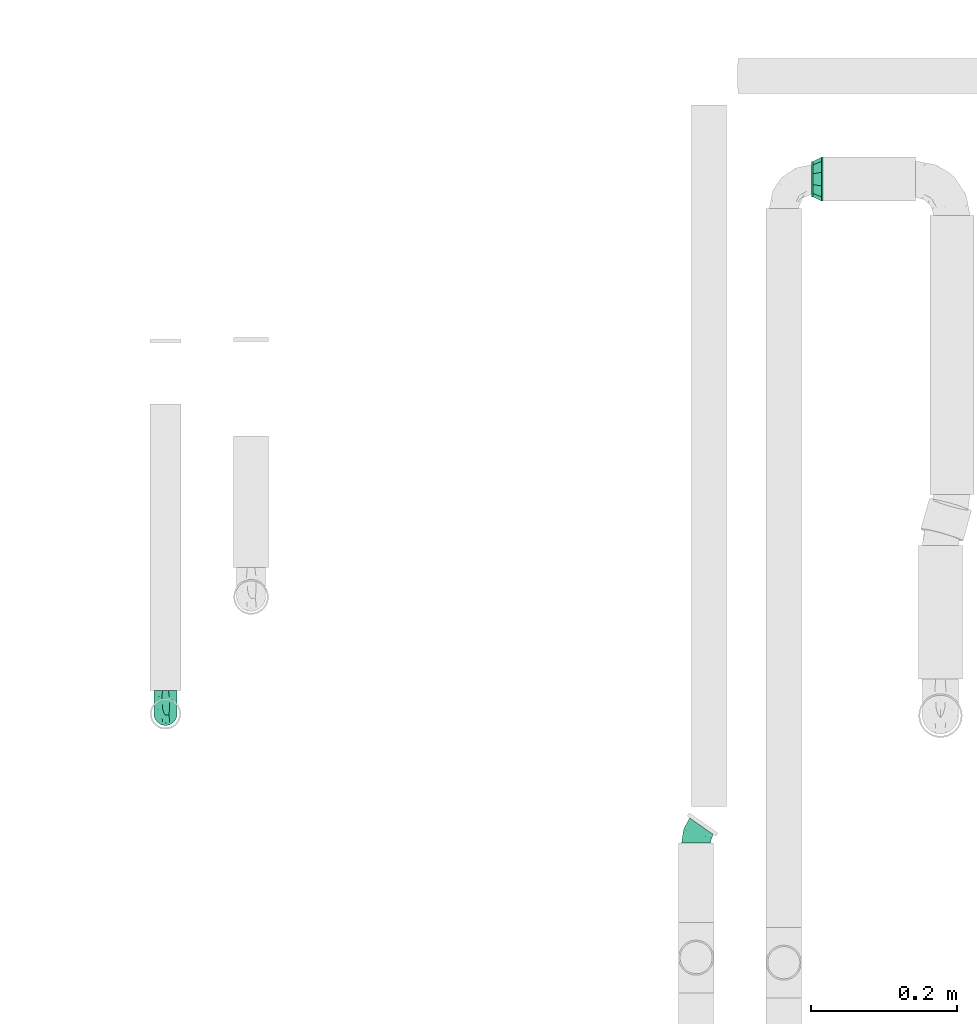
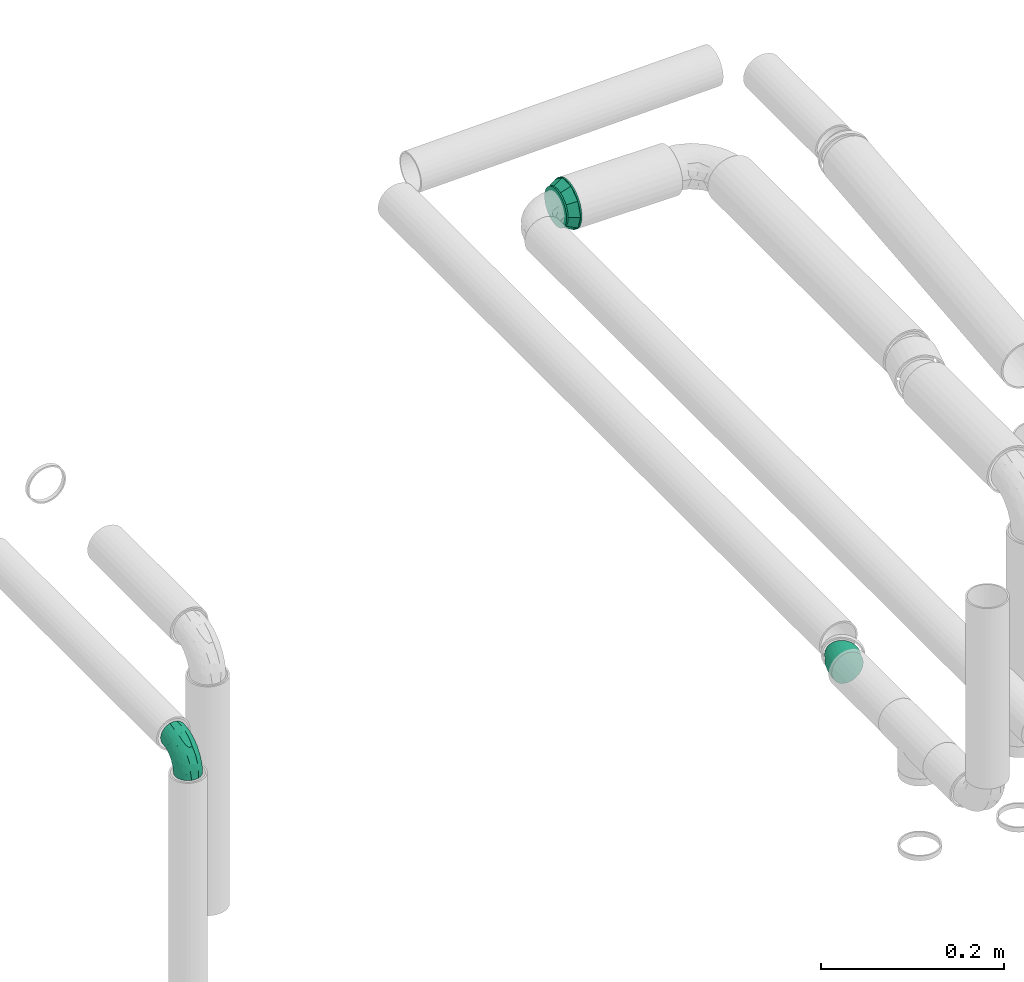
# One storey, part 154 of 156: 3 flow fittings.
"""IFC2X3 building model written with IfcOpenShell, lengths in millimetres."""

from ifc_helpers import new_model, entity, si_unit, converted_unit, derived_unit, direction, frame, origin_with_axes, place, context, subcontext, project, spatial, open_shell, surface_model, source, transform, mapped, type_object, element, save


model = new_model("IFC2X3")

# Units and contexts
model_context = context("Model", 3, precision=0.01, world=frame((0.0, 4.29681676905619e-09, 0.0)), true_north=direction((4.01073788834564e-13, 1.0)))
plan_context = context("Plan", 3, precision=0.01, world=frame((0.0, 4.29681676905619e-09, 0.0)), true_north=direction((4.01073788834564e-13, 1.0)))
body_context = subcontext(model_context, "Body", "Model", "MODEL_VIEW")
ifc_project = project(units=[converted_unit("PLANEANGLEUNIT", "DEGREE", entity("IfcPositiveLengthMeasure", 0.0174532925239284), si_unit("PLANEANGLEUNIT", "RADIAN"), dimensions=[0, 0, 0, 0, 0, 0, 0]), si_unit("AREAUNIT", "SQUARE_METRE"), si_unit("LENGTHUNIT", "METRE", prefix="MILLI"), si_unit("MASSUNIT", "GRAM", prefix="KILO"), si_unit("POWERUNIT", "WATT"), si_unit("PRESSUREUNIT", "PASCAL", prefix="KILO"), si_unit("FORCEUNIT", "NEWTON", prefix="KILO"), si_unit("ELECTRICVOLTAGEUNIT", "VOLT"), si_unit("ELECTRICCURRENTUNIT", "AMPERE"), si_unit("THERMODYNAMICTEMPERATUREUNIT", "DEGREE_CELSIUS"), si_unit("TIMEUNIT", "SECOND"), si_unit("VOLUMEUNIT", "CUBIC_METRE"), derived_unit("LINEARVELOCITYUNIT", [(si_unit("LENGTHUNIT", "METRE"), 1), (si_unit("TIMEUNIT", "SECOND"), -1)]), derived_unit("VOLUMETRICFLOWRATEUNIT", [(si_unit("VOLUMEUNIT", "CUBIC_METRE"), 1), (si_unit("TIMEUNIT", "SECOND"), -1)]), derived_unit("THERMALTRANSMITTANCEUNIT", [(si_unit("POWERUNIT", "WATT"), 1), (si_unit("THERMODYNAMICTEMPERATUREUNIT", "KELVIN"), -1), (si_unit("AREAUNIT", "SQUARE_METRE"), -1)]), derived_unit("SOUNDPRESSUREUNIT", [(si_unit("PRESSUREUNIT", "PASCAL"), 1)])], contexts=[model_context, plan_context])

# Site, building, storey
site_placement = place(None, frame((0.0, -4.29681676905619e-09, 0.0), z_axis=(0.0, 0.0, 1.0), x_axis=(1.0, 0.0, 0.0)))
site = spatial("IfcSite", under=ifc_project, at=site_placement, CompositionType="ELEMENT")
building_placement = place(site_placement, frame((0.0, 4.29681676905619e-09, 0.0), z_axis=(0.0, 0.0, 1.0), x_axis=(1.0, 0.0, 0.0)))
building = spatial("IfcBuilding", under=site, at=building_placement, Name="mc-building", CompositionType="ELEMENT")
storey_placement = place(building_placement, frame((0.0, 0.0, 205200.0), z_axis=(0.0, 0.0, 1.0), x_axis=(1.0, 0.0, 0.0)))
storey = spatial("IfcBuildingStorey", under=building, at=storey_placement, Name="Nivå D + 1,2 m", CompositionType="ELEMENT", Elevation=205200.0)

# Flow fittings
pipe_fitting_type_1 = type_object("IfcPipeFittingType", Name="magi_pipe_fe_reducer_centric_short_001", PredefinedType="TRANSITION")
shared_shape_1 = source(origin_with_axes(), body_context, "Body", "SurfaceModel", [
    surface_model("IfcShellBasedSurfaceModel", [(-2.0, 0.0, 30.2), (-2.0, 7.81634, 29.17096), (-2.0, 15.1, 26.15397), (-2.0, 21.35462, 21.35462), (-2.0, 26.15397, 15.1), (-2.0, 29.17096, 7.81634), (-2.0, -29.17096, 7.81634), (-2.0, 30.2, 0.0), (-2.0, -7.81634, 29.17096), (-2.0, -21.35462, 21.35462), (-2.0, -15.1, 26.15397), (-2.0, -26.15397, 15.1), (-2.0, -30.2, 0.0), (-2.0, 29.17096, -7.81634), (-2.0, 26.15397, -15.1), (-2.0, 21.35462, -21.35462), (-2.0, 15.1, -26.15397), (-2.0, 7.81634, -29.17096), (-2.0, -15.1, -26.15397), (-2.0, -29.17096, -7.81634), (-2.0, -21.35462, -21.35462), (-2.0, -26.15397, -15.1), (-2.0, 0.0, -30.2), (-2.0, -7.81634, -29.17096), (0.0, 7.81634, -29.17096), (0.0, 15.1, -26.15397), (0.0, 21.35462, -21.35462), (0.0, 30.2, 0.0), (0.0, 26.15397, -15.1), (0.0, 29.17096, -7.81634), (0.0, -15.1, -26.15397), (0.0, -29.17096, 7.81634), (0.0, 0.0, -30.2), (0.0, -7.81634, -29.17096), (0.0, -21.35462, -21.35462), (0.0, -29.17096, -7.81634), (0.0, -26.15397, -15.1), (0.0, 29.17096, 7.81634), (0.0, 26.15397, 15.1), (0.0, 21.35462, 21.35462), (0.0, -21.35462, 21.35462), (0.0, 15.1, 26.15397), (0.0, 7.81634, 29.17096), (0.0, 0.0, 30.2), (0.0, -26.15397, 15.1), (0.0, -30.2, 0.0), (0.0, -7.81634, 29.17096), (0.0, -15.1, 26.15397), (0.0, 24.43231, 17.75111), (0.0, 9.33231, -28.72191), (0.0, -9.33231, -28.72191), (0.0, -24.43231, -17.75111), (0.0, 9.33231, 28.72191), (0.0, -9.33231, 28.72191), (0.0, -24.43231, 17.75111), (0.0, 24.43231, -17.75111), (14.0, 12.1, -20.95781), (14.0, -24.2, 0.0), (14.0, 6.26342, -23.37541), (14.0, 23.37541, -6.26342), (14.0, 17.11198, -17.11198), (14.0, 20.95781, -12.1), (14.0, -17.11198, -17.11198), (14.0, -6.26342, -23.37541), (14.0, -12.1, -20.95781), (14.0, 0.0, -24.2), (14.0, -23.37541, -6.26342), (14.0, -20.95781, -12.1), (14.0, 24.2, 0.0), (14.0, 23.37541, 6.26342), (14.0, 20.95781, 12.1), (14.0, 17.11198, 17.11198), (14.0, 12.1, 20.95781), (14.0, 6.26342, 23.37541), (14.0, 0.0, 24.2), (14.0, -23.37541, 6.26342), (14.0, -17.11198, 17.11198), (14.0, -20.95781, 12.1), (14.0, -6.26342, 23.37541), (14.0, -12.1, 20.95781), (12.0, 0.0, 24.2), (12.0, 6.26342, 23.37541), (12.0, 12.1, 20.95781), (12.0, 17.11198, 17.11198), (12.0, 20.95781, 12.1), (12.0, 23.37541, 6.26342), (12.0, -23.37541, 6.26342), (12.0, -17.11198, -17.11198), (12.0, -6.26342, 23.37541), (12.0, -17.11198, 17.11198), (12.0, -12.1, 20.95781), (12.0, -20.95781, 12.1), (12.0, -24.2, 0.0), (12.0, 24.2, 0.0), (12.0, 17.11198, -17.11198), (12.0, 23.37541, -6.26342), (12.0, 20.95781, -12.1), (12.0, 12.1, -20.95781), (12.0, 6.26342, -23.37541), (12.0, -23.37541, -6.26342), (12.0, -20.95781, -12.1), (12.0, -6.26342, -23.37541), (12.0, -12.1, -20.95781), (12.0, 0.0, -24.2), (12.0, -7.47821, 23.01557), (12.0, -19.57821, 14.2244), (12.0, 19.57821, 14.2244), (12.0, 7.47821, 23.01557), (12.0, -7.47821, -23.01557), (12.0, -19.57821, -14.2244), (12.0, 7.47821, -23.01557), (12.0, 19.57821, -14.2244), (12.0, 13.52821, -18.61999), (0.0, 16.88231, -23.23651), (0.0, 27.31616, -8.87556), (12.0, 21.8891, -7.1122), (0.0, -27.48172, -8.36602), (12.0, 0.0, -23.01557), (0.0, 0.0, -28.72191), (12.0, -21.8891, -7.1122), (0.0, -16.88231, -23.23651), (12.0, -13.52821, -18.61999), (12.0, -13.52821, 18.61999), (0.0, -16.88231, 23.23651), (0.0, -27.31616, 8.87556), (12.0, -21.8891, 7.1122), (0.0, 27.48172, 8.36602), (12.0, 0.0, 23.01557), (0.0, 0.0, 28.72191), (12.0, 21.8891, 7.1122), (0.0, 16.88231, 23.23651), (12.0, 13.52821, 18.61999)], [open_shell([[[0, 1, 2]], [[0, 2, 3]], [[3, 4, 5]], [[0, 3, 6]], [[7, 6, 3]], [[8, 9, 10]], [[8, 0, 9]], [[9, 6, 11]], [[0, 6, 9]], [[6, 7, 12]], [[7, 3, 5]], [[7, 13, 14]], [[7, 14, 15]], [[15, 16, 17]], [[15, 17, 7]], [[17, 18, 12]], [[19, 20, 21]], [[20, 19, 18]], [[18, 22, 23]], [[19, 12, 18]], [[17, 22, 18]], [[12, 7, 17]], [[24, 25, 26]], [[24, 26, 27]], [[28, 29, 27]], [[28, 27, 26]], [[30, 24, 31]], [[32, 30, 33]], [[32, 24, 30]], [[34, 35, 36]], [[35, 34, 30]], [[30, 31, 35]], [[31, 24, 27]], [[37, 38, 39]], [[27, 39, 40]], [[41, 42, 43]], [[40, 39, 41]], [[40, 41, 43]], [[31, 40, 44]], [[45, 35, 31]], [[40, 46, 47]], [[31, 27, 40]], [[46, 40, 43]], [[37, 39, 27]], [[19, 35, 12]], [[21, 36, 19]], [[30, 20, 18]], [[21, 20, 34]], [[33, 18, 23]], [[19, 36, 35]], [[35, 45, 12]], [[33, 30, 18]], [[34, 20, 30]], [[34, 36, 21]], [[32, 33, 23]], [[23, 22, 32]], [[17, 24, 22]], [[16, 25, 17]], [[28, 15, 14]], [[16, 15, 26]], [[29, 14, 13]], [[16, 26, 25]], [[25, 24, 17]], [[27, 29, 13]], [[28, 14, 29]], [[28, 26, 15]], [[7, 27, 13]], [[22, 24, 32]], [[5, 37, 7]], [[4, 38, 5]], [[41, 3, 2]], [[4, 3, 39]], [[42, 2, 1]], [[5, 38, 37]], [[37, 27, 7]], [[42, 41, 2]], [[39, 3, 41]], [[39, 38, 4]], [[43, 42, 1]], [[1, 0, 43]], [[8, 46, 0]], [[10, 47, 8]], [[44, 9, 11]], [[10, 9, 40]], [[31, 11, 6]], [[10, 40, 47]], [[47, 46, 8]], [[45, 31, 6]], [[44, 11, 31]], [[44, 40, 9]], [[12, 45, 6]], [[0, 46, 43]], [[48, 49, 45]], [[45, 50, 51]], [[45, 49, 50]], [[52, 48, 45]], [[53, 45, 54]], [[45, 53, 52]], [[49, 48, 55]], [[55, 48, 27]], [[56, 57, 58]], [[59, 56, 60]], [[56, 59, 57]], [[59, 60, 61]], [[57, 62, 58]], [[63, 62, 64]], [[63, 65, 58]], [[62, 66, 67]], [[63, 58, 62]], [[62, 57, 66]], [[68, 57, 59]], [[69, 70, 71]], [[68, 71, 57]], [[72, 73, 74]], [[72, 74, 71]], [[57, 71, 74]], [[75, 76, 77]], [[78, 75, 57]], [[76, 78, 79]], [[78, 76, 75]], [[57, 74, 78]], [[71, 68, 69]], [[80, 81, 82]], [[80, 82, 83]], [[83, 84, 85]], [[80, 83, 86]], [[83, 87, 86]], [[88, 89, 90]], [[88, 80, 89]], [[89, 86, 91]], [[80, 86, 89]], [[86, 87, 92]], [[83, 85, 93]], [[94, 93, 95]], [[94, 95, 96]], [[97, 98, 93]], [[97, 93, 94]], [[98, 87, 83]], [[99, 87, 100]], [[92, 87, 99]], [[87, 101, 102]], [[87, 98, 101]], [[103, 101, 98]], [[83, 93, 98]], [[99, 66, 92]], [[100, 67, 99]], [[64, 87, 102]], [[100, 87, 62]], [[63, 102, 101]], [[99, 67, 66]], [[66, 57, 92]], [[63, 64, 102]], [[62, 87, 64]], [[62, 67, 100]], [[65, 63, 101]], [[101, 103, 65]], [[98, 58, 103]], [[97, 56, 98]], [[61, 94, 96]], [[97, 94, 60]], [[59, 96, 95]], [[97, 60, 56]], [[56, 58, 98]], [[68, 59, 95]], [[61, 96, 59]], [[61, 60, 94]], [[93, 68, 95]], [[103, 58, 65]], [[85, 69, 93]], [[84, 70, 85]], [[72, 83, 82]], [[84, 83, 71]], [[73, 82, 81]], [[85, 70, 69]], [[69, 68, 93]], [[73, 72, 82]], [[71, 83, 72]], [[71, 70, 84]], [[74, 73, 81]], [[81, 80, 74]], [[88, 78, 80]], [[90, 79, 88]], [[77, 89, 91]], [[90, 89, 76]], [[75, 91, 86]], [[90, 76, 79]], [[79, 78, 88]], [[57, 75, 86]], [[77, 91, 75]], [[77, 76, 89]], [[92, 57, 86]], [[80, 78, 74]], [[104, 105, 106]], [[104, 106, 107]], [[106, 105, 93]], [[105, 108, 93]], [[109, 108, 105]], [[110, 111, 93]], [[93, 108, 110]], [[92, 109, 105]], [[55, 111, 112]], [[110, 113, 112]], [[113, 110, 49]], [[114, 115, 111]], [[93, 115, 27]], [[113, 55, 112]], [[92, 45, 116]], [[49, 117, 118]], [[118, 117, 108]], [[108, 50, 118]], [[111, 55, 114]], [[27, 115, 114]], [[116, 119, 92]], [[120, 121, 109]], [[108, 121, 50]], [[51, 109, 119]], [[50, 121, 120]], [[109, 51, 120]], [[110, 117, 49]], [[51, 119, 116]], [[54, 105, 122]], [[104, 123, 122]], [[123, 104, 53]], [[124, 125, 105]], [[92, 125, 45]], [[123, 54, 122]], [[93, 27, 126]], [[53, 127, 128]], [[128, 127, 107]], [[107, 52, 128]], [[105, 54, 124]], [[45, 125, 124]], [[126, 129, 93]], [[130, 131, 106]], [[107, 131, 52]], [[48, 106, 129]], [[52, 131, 130]], [[106, 48, 130]], [[104, 127, 53]], [[48, 129, 126]]])]),
])
flow_fitting_1_placement = place(storey_placement, frame((343685.85487, 461539.79788, 4249.39240000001), z_axis=(0.0, 0.0, 1.0), x_axis=(-1.0, 0.0, 0.0)))
element("IfcFlowFitting", 1, at=flow_fitting_1_placement, inside=storey, type_object=pipe_fitting_type_1, Name="magi_pipe_fe_reducer_centric_short_001", context=body_context, shape_type="MappedRepresentation", body=[
    mapped(shared_shape_1, transform((0.0, 0.0, 0.0), scale=1.0)),
])
pipe_fitting_type_2 = type_object("IfcPipeFittingType", Name="magi_pipe_elbow_short_001", PredefinedType="BEND")
shared_shape_2 = source(origin_with_axes(), body_context, "Body", "SurfaceModel", [
    surface_model("IfcShellBasedSurfaceModel", [(-32.0, 8.0, -13.85641), (-32.0, 4.1411, -15.45481), (-32.0, 0.0, -16.0), (-32.0, 15.45481, -4.1411), (-32.0, 13.85641, -8.0), (-32.0, 11.31371, -11.31371), (-32.0, -8.0, -13.85641), (-32.0, -11.31371, -11.31371), (-32.0, -4.1411, -15.45481), (0.0, 32.0, -16.0), (-4.1411, 32.0, -15.45481), (-8.0, 32.0, -13.85641), (-11.31371, 32.0, -11.31371), (-13.85641, 32.0, -8.0), (-15.45481, 32.0, -4.1411), (4.1411, 32.0, -15.45481), (11.31371, 32.0, -11.31371), (8.0, 32.0, -13.85641), (-32.0, -11.31371, 11.31371), (-23.4735, -12.43025, 8.98197), (-21.011, -9.23094, 11.92251), (-32.0, -15.45481, 4.1411), (-32.0, -16.0, 0.0), (-22.8156, -14.17311, 0.0), (-14.14376, -10.1894, 8.07546), (-21.2648, -13.96498, 4.99008), (13.96498, 21.2648, 4.99008), (11.29003, 12.53385, 4.10164), (12.34622, 13.6312, 0.0), (-32.0, -13.85641, 8.0), (7.30307, 12.9595, 10.94335), (9.23094, 21.011, 11.92251), (3.88326, 12.36175, 13.29248), (-32.0, -8.0, 13.85641), (-23.51723, -6.0503, 14.39508), (-32.0, 0.0, 16.0), (-24.44288, -2.11956, 15.72636), (-22.40519, 2.45258, 15.97273), (-25.09272, 13.31609, 10.49138), (-22.92311, 16.72298, 7.31509), (-28.0096, 15.02445, 6.6299), (-5.84503, -7.14367, 0.0), (-12.53385, -11.29003, 4.10164), (-13.6312, -12.34622, 0.0), (11.31371, 32.0, 11.31371), (8.0, 32.0, 13.85641), (-16.86565, 17.86862, 11.33353), (-4.1411, 32.0, 15.45481), (-5.97251, 27.59894, 14.98686), (-2.19287, 23.93374, 15.9607), (-32.0, 8.0, 13.85641), (-27.68211, 9.68932, 13.03718), (-32.0, 11.31371, 11.31371), (-32.0, -4.1411, 15.45481), (-1.37694, -2.70473, 7.20923), (-0.26817, 0.33015, 9.55748), (-5.4389, -3.83156, 9.8577), (-4.17645, 10.71638, 15.71036), (-7.95007, 2.93523, 14.94078), (-1.63455, 8.64436, 14.70381), (-32.0, 13.85641, 8.0), (-13.85641, 32.0, 8.0), (-15.45481, 32.0, 4.1411), (-16.47251, 23.43521, 7.24239), (-24.79747, 18.98339, 0.0), (-32.0, 16.0, 0.0), (-26.64632, 16.37545, 4.03178), (-32.0, 15.45481, 4.1411), (-32.0, 4.1411, 15.45481), (-24.66412, 6.27513, 15.11429), (-5.56075, 15.73438, 15.97129), (-11.85143, 11.85143, 15.61123), (-9.52721, 6.99187, 15.91758), (-2.85806, 2.85806, 13.08136), (-12.36175, -3.88326, 13.29248), (-15.9295, -0.14358, 15.50805), (10.1894, 14.14375, 8.07546), (12.43025, 23.4735, 8.98197), (6.0503, 23.51723, 14.39508), (4.1411, 32.0, 15.45481), (13.85641, 32.0, 8.0), (15.45481, 32.0, 4.1411), (0.0, 32.0, 16.0), (2.11956, 24.44288, 15.72636), (-12.9595, -7.30307, 10.94335), (14.17311, 22.8156, 0.0), (-6.9197, 21.68039, 15.23776), (-10.11085, 24.78025, 13.26201), (-12.1022, 17.29632, 14.25861), (-13.14615, 21.25663, 12.24373), (-17.08823, 14.3574, 13.29642), (-21.88552, 19.01234, 3.81525), (-20.68629, 20.68629, 0.0), (-8.0, 32.0, 13.85641), (-11.31371, 32.0, 11.31371), (-17.56987, 24.1257, 3.72132), (-13.20844, 25.51226, 10.44534), (-17.582, 6.85355, 15.71367), (-15.70021, 3.92069, 15.99317), (-17.00986, 10.85642, 14.79906), (-9.32027, 16.6088, 15.32722), (0.14358, 15.9295, 15.50805), (-22.03273, 10.86108, 13.47365), (16.0, 32.0, 0.0), (3.64347, 5.55734, 10.13466), (-7.59403, -7.14237, 7.51029), (0.95001, -2.07819, 4.33054), (4.85872, 2.84974, 5.5877), (4.96247, 1.66088, 2.39778), (8.24101, 6.67406, 3.77923), (-16.0, 32.0, 0.0), (-18.98339, 24.79747, 0.0), (8.03332, 8.3001, 6.71522), (-4.31231, -6.36274, 4.6455), (1.94113, -1.94113, 0.0), (7.14367, 5.84503, 0.0), (-25.32923, 2.0231, -15.94793), (-13.84137, 23.42062, -10.67679), (-26.93751, -12.7369, -9.29605), (-32.0, -13.85641, -8.0), (-24.61983, 6.28218, -15.11617), (-21.83883, 18.97821, -4.03505), (-13.07122, -4.03793, -13.42365), (-13.8935, -0.19958, -15.21787), (-6.42859, -0.26774, -13.11034), (-23.22921, 10.49085, -13.38146), (-25.29749, 13.26237, -10.46889), (9.55901, 23.14783, -12.08024), (5.52177, 20.26242, -14.23003), (6.30769, 27.02237, -14.56182), (-19.2964, 14.6623, -12.06718), (11.86526, 20.10359, -8.66616), (11.87687, 14.84028, -5.25328), (9.23285, 12.20619, -8.20207), (-14.81833, 18.5961, -12.32026), (-11.39434, 19.56448, -13.89505), (-14.78728, 14.78728, -14.04856), (-24.20404, -14.44929, 0.0), (-23.34156, -14.32363, -5.21614), (12.7369, 26.93751, -9.29605), (14.32363, 23.34156, -5.21614), (-32.0, -15.45481, -4.1411), (-6.96277, -7.86759, -5.35444), (-14.84028, -11.87687, -5.25328), (-23.14783, -9.55901, -12.08024), (0.15642, 0.39103, -9.19979), (-5.40268, -5.04677, -8.4193), (-4.86503, -2.24566, -10.92133), (-20.10359, -11.86526, -8.66616), (0.67357, 7.51586, -13.34326), (0.19958, 13.8935, -15.21787), (3.30689, 13.65938, -13.97757), (-23.57312, -2.0174, -15.70746), (-27.02237, -6.30769, -14.56182), (-17.46164, -7.30569, -12.56291), (2.0174, 23.57312, -15.70746), (-27.11803, 16.51515, -2.7391), (1.60963, -1.21867, -4.82371), (-15.68821, 25.39122, -6.97369), (-16.74845, 25.96573, -3.5636), (-12.20619, -9.23285, -8.20207), (-5.64839, 5.64839, -15.1083), (-19.4434, 19.02339, -7.84838), (-2.0231, 25.32923, -15.94793), (-6.53133, 23.2784, -15.17234), (13.85641, 32.0, -8.0), (-10.0425, 25.11865, -13.23592), (-20.26242, -5.52177, -14.23003), (2.77578, 5.58227, -10.9436), (6.5268, 11.94644, -11.19274), (5.28337, 5.63621, -8.3262), (-3.78236, 17.62649, -15.99655), (7.86759, 6.96277, -5.35444), (15.45481, 32.0, -4.1411), (-8.65165, 9.33631, -15.99092), (-9.46729, 15.16799, -15.52378), (-15.79717, 9.25947, -15.47171), (-25.58026, 15.72694, -6.7501), (14.44929, 24.20404, 0.0), (-17.62649, 3.78236, -15.99655), (-18.34315, 26.34315, 0.0), (-11.94644, -6.5268, -11.19274), (-17.84336, 18.12088, -10.38149)], [open_shell([[[0, 1, 2]], [[3, 4, 5]], [[6, 7, 8]], [[9, 10, 11]], [[12, 13, 14]], [[15, 16, 17]], [[18, 19, 20]], [[21, 22, 23]], [[24, 19, 25]], [[26, 27, 28]], [[19, 18, 29]], [[21, 25, 29]], [[30, 31, 32]], [[20, 33, 18]], [[20, 34, 33]], [[35, 36, 37]], [[38, 39, 40]], [[41, 42, 43]], [[31, 44, 45]], [[38, 46, 39]], [[47, 48, 49]], [[50, 51, 52]], [[53, 36, 35]], [[54, 55, 56]], [[57, 58, 59]], [[52, 38, 60]], [[61, 62, 63]], [[64, 65, 66]], [[40, 67, 60]], [[35, 37, 68]], [[68, 69, 50]], [[70, 71, 72]], [[56, 73, 74]], [[34, 74, 75]], [[76, 77, 31]], [[78, 45, 79]], [[80, 26, 81]], [[79, 82, 83]], [[27, 26, 76]], [[80, 77, 26]], [[84, 74, 20]], [[77, 80, 44]], [[33, 34, 53]], [[26, 28, 85]], [[85, 81, 26]], [[42, 25, 43]], [[86, 70, 49]], [[87, 88, 86]], [[89, 90, 88]], [[64, 91, 92]], [[93, 94, 87]], [[95, 92, 91]], [[46, 63, 39]], [[47, 93, 48]], [[65, 67, 66]], [[87, 86, 48]], [[63, 95, 91]], [[94, 96, 87]], [[49, 82, 47]], [[89, 87, 96]], [[21, 23, 25]], [[78, 31, 45]], [[31, 78, 32]], [[69, 68, 37]], [[97, 98, 72]], [[99, 69, 97]], [[94, 61, 96]], [[86, 88, 100]], [[86, 100, 70]], [[83, 49, 101]], [[51, 38, 52]], [[38, 102, 90]], [[74, 34, 20]], [[43, 25, 23]], [[36, 34, 75]], [[84, 20, 24]], [[74, 73, 58]], [[83, 78, 79]], [[103, 81, 85]], [[101, 59, 32]], [[101, 32, 78]], [[32, 73, 104]], [[105, 56, 84]], [[54, 56, 105]], [[42, 24, 25]], [[54, 106, 107]], [[108, 109, 107]], [[30, 76, 31]], [[25, 19, 29]], [[20, 19, 24]], [[31, 77, 44]], [[26, 77, 76]], [[97, 69, 37]], [[51, 69, 102]], [[67, 40, 66]], [[39, 63, 91]], [[110, 111, 95]], [[95, 111, 92]], [[61, 63, 96]], [[46, 96, 63]], [[89, 88, 87]], [[99, 90, 102]], [[97, 72, 71]], [[101, 49, 70]], [[58, 72, 75]], [[70, 72, 57]], [[49, 83, 82]], [[78, 83, 101]], [[34, 36, 53]], [[37, 36, 75]], [[55, 73, 56]], [[104, 107, 112]], [[97, 37, 98]], [[99, 97, 71]], [[88, 99, 71]], [[69, 99, 102]], [[88, 90, 99]], [[38, 90, 46]], [[37, 75, 98]], [[75, 72, 98]], [[74, 58, 75]], [[59, 58, 73]], [[32, 59, 73]], [[57, 59, 101]], [[70, 57, 101]], [[58, 57, 72]], [[69, 51, 50]], [[38, 51, 102]], [[87, 48, 93]], [[49, 48, 86]], [[38, 40, 60]], [[66, 39, 91]], [[39, 66, 40]], [[66, 91, 64]], [[42, 41, 113]], [[105, 42, 113]], [[107, 109, 112]], [[114, 113, 41]], [[105, 84, 24]], [[107, 106, 108]], [[115, 28, 27]], [[56, 74, 84]], [[32, 104, 30]], [[112, 30, 104]], [[42, 105, 24]], [[54, 105, 113]], [[106, 54, 113]], [[55, 107, 104]], [[113, 114, 106]], [[108, 106, 114]], [[114, 115, 108]], [[109, 115, 27]], [[115, 109, 108]], [[112, 27, 76]], [[27, 112, 109]], [[112, 76, 30]], [[107, 55, 54]], [[73, 55, 104]], [[63, 62, 95]], [[110, 95, 62]], [[96, 46, 89]], [[89, 46, 90]], [[70, 100, 71]], [[1, 116, 2]], [[13, 12, 117]], [[7, 118, 119]], [[0, 120, 1]], [[92, 121, 64]], [[122, 123, 124]], [[125, 5, 126]], [[127, 128, 129]], [[125, 126, 130]], [[131, 132, 133]], [[134, 135, 136]], [[125, 0, 5]], [[43, 137, 138]], [[131, 139, 140]], [[138, 141, 119]], [[142, 41, 143]], [[144, 7, 6]], [[145, 146, 147]], [[143, 138, 148]], [[149, 150, 151]], [[152, 8, 2]], [[6, 153, 144]], [[148, 144, 154]], [[153, 6, 8]], [[140, 132, 131]], [[15, 155, 9]], [[65, 64, 156]], [[146, 157, 142]], [[158, 159, 14]], [[143, 160, 142]], [[161, 150, 149]], [[14, 13, 158]], [[117, 162, 158]], [[17, 16, 127]], [[9, 163, 10]], [[10, 163, 164]], [[139, 16, 165]], [[12, 11, 166]], [[121, 159, 162]], [[155, 15, 129]], [[153, 152, 167]], [[120, 0, 125]], [[168, 169, 170]], [[171, 155, 150]], [[10, 164, 11]], [[129, 15, 17]], [[139, 127, 16]], [[167, 152, 123]], [[133, 132, 172]], [[130, 134, 136]], [[5, 4, 126]], [[169, 128, 127]], [[165, 173, 140]], [[171, 174, 175]], [[176, 120, 125]], [[156, 177, 3]], [[132, 28, 115]], [[166, 11, 164]], [[175, 164, 171]], [[134, 166, 135]], [[118, 138, 119]], [[137, 22, 141]], [[173, 103, 178]], [[169, 127, 131]], [[150, 155, 128]], [[163, 155, 171]], [[151, 169, 149]], [[150, 161, 174]], [[167, 122, 154]], [[118, 144, 148]], [[116, 152, 2]], [[179, 174, 123]], [[179, 123, 152]], [[123, 161, 124]], [[160, 143, 148]], [[137, 141, 138]], [[173, 178, 140]], [[28, 140, 178]], [[177, 126, 4]], [[125, 130, 136]], [[176, 125, 136]], [[116, 120, 179]], [[117, 158, 13]], [[159, 92, 180]], [[164, 175, 135]], [[117, 12, 166]], [[159, 110, 14]], [[64, 121, 156]], [[121, 162, 177]], [[159, 121, 92]], [[133, 170, 169]], [[124, 161, 149]], [[145, 170, 157]], [[146, 142, 160]], [[124, 149, 168]], [[124, 181, 122]], [[126, 177, 162]], [[4, 3, 177]], [[157, 41, 142]], [[43, 138, 143]], [[140, 28, 132]], [[132, 115, 172]], [[120, 116, 1]], [[152, 116, 179]], [[155, 163, 9]], [[164, 163, 171]], [[171, 150, 174]], [[176, 136, 175]], [[123, 174, 161]], [[176, 174, 179]], [[174, 176, 175]], [[120, 176, 179]], [[148, 181, 160]], [[124, 147, 181]], [[181, 146, 160]], [[157, 146, 145]], [[170, 133, 172]], [[169, 131, 133]], [[157, 170, 172]], [[170, 145, 168]], [[168, 145, 147]], [[149, 169, 168]], [[162, 182, 126]], [[182, 117, 134]], [[181, 147, 146]], [[168, 147, 124]], [[182, 134, 130]], [[166, 134, 117]], [[164, 135, 166]], [[175, 136, 135]], [[126, 182, 130]], [[117, 182, 162]], [[159, 158, 162]], [[110, 159, 180]], [[177, 156, 121]], [[65, 156, 3]], [[127, 129, 17]], [[155, 129, 128]], [[140, 139, 165]], [[127, 139, 131]], [[152, 153, 8]], [[144, 153, 167]], [[144, 118, 7]], [[138, 118, 148]], [[150, 128, 151]], [[157, 115, 114]], [[43, 143, 41]], [[169, 151, 128]], [[115, 157, 172]], [[157, 114, 41]], [[154, 122, 181]], [[123, 122, 167]], [[148, 154, 181]], [[167, 154, 144]], [[0, 2, 8]], [[22, 5, 0]], [[22, 67, 5]], [[7, 0, 8]], [[119, 141, 7]], [[22, 7, 141]], [[7, 22, 0]], [[67, 3, 5]], [[67, 22, 21]], [[60, 67, 68]], [[60, 68, 50]], [[52, 60, 50]], [[68, 67, 18]], [[29, 18, 21]], [[18, 67, 21]], [[33, 53, 18]], [[18, 53, 68]], [[53, 35, 68]], [[65, 3, 67]], [[15, 9, 11]], [[11, 12, 16]], [[16, 12, 62]], [[15, 11, 16]], [[16, 173, 165]], [[103, 173, 81]], [[173, 16, 81]], [[12, 14, 62]], [[81, 16, 62]], [[47, 62, 61]], [[93, 47, 61]], [[93, 61, 94]], [[44, 62, 47]], [[81, 44, 80]], [[81, 62, 44]], [[44, 79, 45]], [[47, 79, 44]], [[47, 82, 79]], [[62, 14, 110]], [[100, 88, 71]]])]),
])
flow_fitting_2_placement = place(storey_placement, frame((342785.41942, 460806.04788, 4284.42444999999), z_axis=(-1.0, 0.0, 0.0), x_axis=(0.0, 0.0, 1.0)))
element("IfcFlowFitting", 2, at=flow_fitting_2_placement, inside=storey, type_object=pipe_fitting_type_2, Name="magi_pipe_elbow_short_001", context=body_context, shape_type="MappedRepresentation", body=[
    mapped(shared_shape_2, transform((0.0, 0.0, 0.0), scale=1.0)),
])
shared_shape_3 = source(origin_with_axes(), body_context, "Body", "SurfaceModel", [
    surface_model("IfcShellBasedSurfaceModel", [(-12.60889, 5.17638, -19.31852), (-12.60889, 0.0, -20.0), (-12.60889, 14.14214, -14.14214), (-12.60889, 10.0, -17.32051), (-12.60889, 19.31852, -5.17638), (-12.60889, 17.32051, -10.0), (-12.60889, -14.14214, -14.14214), (-12.60889, -20.0, 0.0), (-12.60889, 17.32051, 10.0), (-12.60889, -10.0, -17.32051), (-12.60889, -5.17638, -19.31852), (-12.60889, -19.31852, -5.17638), (-12.60889, -17.32051, -10.0), (-12.60889, 20.0, 0.0), (-12.60889, 19.31852, 5.17638), (-12.60889, 5.17638, 19.31852), (-12.60889, 10.0, 17.32051), (-12.60889, 14.14214, 14.14214), (-12.60889, -14.14214, 14.14214), (-12.60889, -19.31852, 5.17638), (-12.60889, -17.32051, 10.0), (-12.60889, -10.0, 17.32051), (-12.60889, -5.17638, 19.31852), (-12.60889, 0.0, 20.0), (10.3296, 7.23072, -20.0), (7.36115, 11.47138, -19.31852), (4.59498, 15.42304, -17.32051), (2.21962, 18.81641, -14.14214), (20.26226, -6.95879, 10.0), (0.39695, 21.42024, -10.0), (18.43959, -4.35497, -14.14214), (21.79885, -9.15392, 0.0), (13.29806, 2.99007, -19.31852), (16.06423, -0.9616, -17.32051), (20.26226, -6.95879, -10.0), (21.40805, -8.59562, -5.17638), (-0.74884, 23.05707, -5.17638), (-1.13964, 23.61536, 0.0), (-0.74884, 23.05707, 5.17638), (0.39695, 21.42024, 10.0), (18.43959, -4.35497, 14.14214), (4.59498, 15.42304, 17.32051), (7.36115, 11.47138, 19.31852), (2.21962, 18.81641, 14.14214), (21.40805, -8.59562, 5.17638), (13.29806, 2.99007, 19.31852), (16.06423, -0.9616, 17.32051), (10.3296, 7.23072, 20.0), (-4.9746, -15.55029, 11.90281), (1.90186, -6.03338, 18.21177), (-6.33946, -7.50467, 18.36648), (-1.92622, -11.45477, 15.57072), (12.99286, -9.88655, 11.90281), (-2.98746, -1.97245, 19.76435), (-2.76358, -18.48501, 0.0), (1.19805, -18.08383, 3.43799), (-1.19828, 3.80137, 19.89512), (-1.44323, -17.59441, 7.18), (4.32374, -13.71649, 11.55811), (9.49713, -2.51262, 18.36648), (-5.27557, 16.73605, 12.50611), (-4.13058, 13.1037, 16.14875), (9.10513, -15.6018, 3.50005), (11.27207, -13.58627, 7.18), (8.88924, -7.92202, 15.59386), (-6.48619, 20.57656, 3.80661), (-6.5961, 20.92524, 0.0), (-6.09477, 19.33483, 7.99511), (-4.18753, 8.34483, 18.64209), (5.42947, -17.22427, 0.0), (5.61083, 1.1, 19.78043), (12.86447, -13.55871, 0.0), (-5.22738, -2.31644, -19.78043), (9.10513, -15.6018, -3.50005), (1.19805, -18.08384, -3.43799), (-1.44323, -17.59441, -7.18), (3.57855, 0.0973, -19.76435), (-1.19828, 3.80137, -19.89512), (-5.27558, 16.73605, -12.50611), (-4.13058, 13.1037, -16.14875), (11.27207, -13.58627, -7.18), (-6.48619, 20.57656, -3.80661), (-6.09477, 19.33483, -7.99511), (8.1469, -8.27949, -15.57072), (4.32374, -13.71649, -11.55811), (-4.9746, -15.55029, -11.90281), (-2.73937, -11.58762, -15.59386), (-1.35489, 9.23774, -18.64209), (-6.33946, -7.50467, -18.36648), (1.90186, -6.03338, -18.21177), (9.49713, -2.51262, -18.36648), (12.99286, -9.88655, -11.90281)], [open_shell([[[0, 1, 2]], [[3, 0, 2]], [[4, 5, 2]], [[6, 2, 1]], [[2, 7, 8]], [[9, 6, 10]], [[6, 1, 10]], [[11, 7, 12]], [[6, 12, 7]], [[6, 7, 2]], [[13, 4, 2]], [[8, 14, 13]], [[7, 15, 8]], [[8, 15, 16]], [[17, 8, 16]], [[18, 15, 7]], [[19, 20, 7]], [[7, 20, 18]], [[21, 22, 18]], [[22, 15, 18]], [[15, 22, 23]], [[8, 13, 2]], [[24, 25, 26]], [[24, 26, 27]], [[28, 27, 29]], [[24, 27, 30]], [[28, 31, 27]], [[32, 30, 33]], [[32, 24, 30]], [[34, 31, 35]], [[34, 30, 27]], [[31, 34, 27]], [[28, 29, 36]], [[37, 38, 39]], [[40, 37, 39]], [[41, 42, 39]], [[41, 39, 43]], [[40, 39, 42]], [[37, 40, 28]], [[44, 31, 28]], [[40, 45, 46]], [[40, 42, 45]], [[45, 42, 47]], [[28, 36, 37]], [[20, 48, 18]], [[49, 50, 51]], [[21, 18, 51]], [[28, 40, 52]], [[23, 22, 53]], [[22, 21, 50]], [[19, 54, 55]], [[53, 56, 23]], [[23, 56, 15]], [[47, 42, 56]], [[48, 57, 58]], [[46, 45, 59]], [[17, 60, 8]], [[61, 17, 16]], [[57, 55, 62]], [[58, 57, 63]], [[58, 52, 64]], [[13, 65, 66]], [[20, 19, 57]], [[13, 14, 65]], [[14, 8, 67]], [[16, 15, 68]], [[68, 61, 16]], [[48, 51, 18]], [[69, 55, 54]], [[55, 69, 62]], [[70, 56, 53]], [[46, 64, 40]], [[43, 39, 60]], [[70, 45, 47]], [[19, 55, 57]], [[63, 28, 52]], [[57, 62, 63]], [[51, 64, 49]], [[71, 31, 44]], [[62, 44, 63]], [[69, 71, 62]], [[19, 7, 54]], [[65, 67, 38]], [[66, 65, 37]], [[49, 59, 70]], [[50, 53, 22]], [[42, 68, 56]], [[42, 41, 68]], [[58, 64, 51]], [[43, 60, 61]], [[15, 56, 68]], [[60, 39, 67]], [[41, 61, 68]], [[64, 46, 59]], [[61, 60, 17]], [[28, 63, 44]], [[44, 62, 71]], [[41, 43, 61]], [[60, 67, 8]], [[39, 38, 67]], [[56, 70, 47]], [[49, 70, 53]], [[57, 48, 20]], [[51, 48, 58]], [[64, 52, 40]], [[63, 52, 58]], [[67, 65, 14]], [[37, 65, 38]], [[51, 50, 21]], [[53, 50, 49]], [[70, 59, 45]], [[64, 59, 49]], [[10, 1, 72]], [[73, 74, 75]], [[24, 32, 76]], [[1, 0, 77]], [[78, 2, 5]], [[35, 31, 71]], [[2, 78, 79]], [[34, 35, 80]], [[4, 81, 82]], [[33, 30, 83]], [[84, 85, 86]], [[0, 3, 87]], [[74, 11, 75]], [[71, 69, 73]], [[35, 73, 80]], [[85, 75, 12]], [[9, 86, 6]], [[26, 25, 87]], [[12, 75, 11]], [[6, 85, 12]], [[88, 9, 10]], [[89, 88, 72]], [[0, 87, 77]], [[86, 9, 88]], [[13, 66, 81]], [[73, 75, 80]], [[37, 36, 81]], [[25, 77, 87]], [[35, 71, 73]], [[82, 5, 4]], [[78, 29, 27]], [[89, 83, 86]], [[87, 79, 26]], [[77, 76, 72]], [[3, 79, 87]], [[2, 79, 3]], [[84, 80, 75]], [[24, 77, 25]], [[90, 32, 33]], [[91, 83, 30]], [[27, 26, 79]], [[83, 89, 90]], [[80, 84, 91]], [[84, 86, 83]], [[74, 73, 69]], [[79, 78, 27]], [[54, 74, 69]], [[91, 30, 34]], [[90, 76, 32]], [[77, 24, 76]], [[54, 7, 11]], [[13, 81, 4]], [[11, 74, 54]], [[78, 5, 82]], [[36, 29, 82]], [[78, 82, 29]], [[77, 72, 1]], [[89, 72, 76]], [[86, 85, 6]], [[75, 85, 84]], [[80, 91, 34]], [[83, 91, 84]], [[37, 81, 66]], [[82, 81, 36]], [[72, 88, 10]], [[86, 88, 89]], [[83, 90, 33]], [[76, 90, 89]]])]),
])
flow_fitting_3_placement = place(storey_placement, frame((343513.62466, 460641.59861, 4244.18497999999), z_axis=(0.0, 0.0, 1.0), x_axis=(-0.573462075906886, -0.819232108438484, 0.0)))
element("IfcFlowFitting", 3, at=flow_fitting_3_placement, inside=storey, type_object=pipe_fitting_type_2, Name="magi_pipe_elbow_short_001", context=body_context, shape_type="MappedRepresentation", body=[
    mapped(shared_shape_3, transform((0.0, 0.0, 0.0), scale=1.0)),
])

save(model, "model.ifc")
